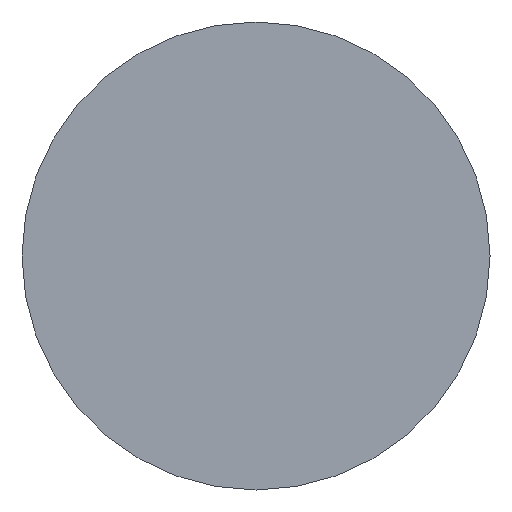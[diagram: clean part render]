
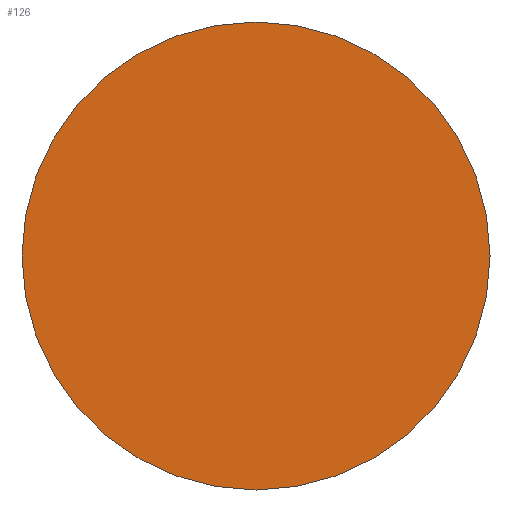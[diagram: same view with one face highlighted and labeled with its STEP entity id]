
A CAD part, front view. The second image highlights one B-rep face of the part: STEP entity #126.
In plain terms, the highlighted planar face has unit normal (0, -1, 0).
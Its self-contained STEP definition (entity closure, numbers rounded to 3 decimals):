
#9 = DIRECTION ( 'NONE',  ( 0., 0., 1. ) ) ;
#15 = EDGE_LOOP ( 'NONE', ( #221, #283 ) ) ;
#101 = CARTESIAN_POINT ( 'NONE',  ( 0., 0., -30. ) ) ;
#126 = ADVANCED_FACE ( 'NONE', ( #1039 ), #484, .T. ) ;
#189 = DIRECTION ( 'NONE',  ( 0., -1., 0. ) ) ;
#221 = ORIENTED_EDGE ( 'NONE', *, *, #1055, .F. ) ;
#227 = DIRECTION ( 'NONE',  ( 0., 1., 0. ) ) ;
#260 = AXIS2_PLACEMENT_3D ( 'NONE', #1200, #612, #9 ) ;
#266 = CARTESIAN_POINT ( 'NONE',  ( 0., 0., 30. ) ) ;
#283 = ORIENTED_EDGE ( 'NONE', *, *, #854, .F. ) ;
#291 = AXIS2_PLACEMENT_3D ( 'NONE', #586, #189, #897 ) ;
#408 = CIRCLE ( 'NONE', #260, 30. ) ;
#484 = PLANE ( 'NONE',  #291 ) ;
#586 = CARTESIAN_POINT ( 'NONE',  ( 0., 0., 30. ) ) ;
#612 = DIRECTION ( 'NONE',  ( 0., 1., 0. ) ) ;
#614 = AXIS2_PLACEMENT_3D ( 'NONE', #838, #227, #931 ) ;
#672 = VERTEX_POINT ( 'NONE', #266 ) ;
#749 = VERTEX_POINT ( 'NONE', #101 ) ;
#838 = CARTESIAN_POINT ( 'NONE',  ( 0., 0., 0. ) ) ;
#854 = EDGE_CURVE ( 'NONE', #749, #672, #1081, .T. ) ;
#897 = DIRECTION ( 'NONE',  ( 0., 0., -1. ) ) ;
#931 = DIRECTION ( 'NONE',  ( 0., 0., 1. ) ) ;
#1039 = FACE_OUTER_BOUND ( 'NONE', #15, .T. ) ;
#1055 = EDGE_CURVE ( 'NONE', #672, #749, #408, .T. ) ;
#1081 = CIRCLE ( 'NONE', #614, 30. ) ;
#1200 = CARTESIAN_POINT ( 'NONE',  ( 0., 0., 0. ) ) ;
